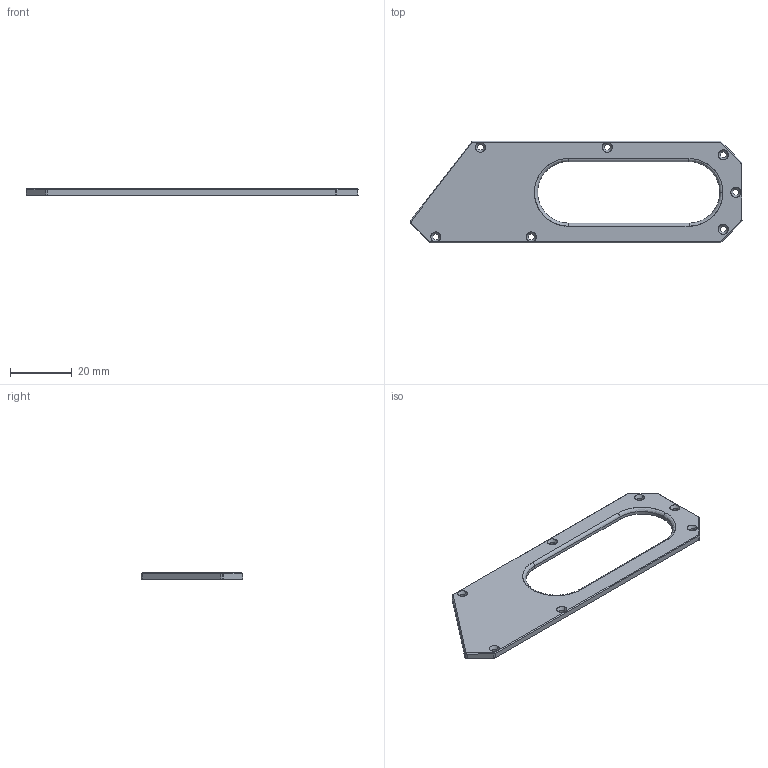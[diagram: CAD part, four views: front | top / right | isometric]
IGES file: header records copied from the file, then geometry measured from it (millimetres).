
Start section: SolidWorks IGES file using analytic representation for surfaces
Global section: file name: C:\Users\Switch\Desktop\video projects\giaco\outsideBoxStickers\3d\done\plate\MakerKnifeFrontPlate.IGS; native system: SolidWorks 2017; preprocessor: SolidWorks 2017; author: Switch; date: 181106.170502; units: millimetre
Bounding box: 107.94 x 33.1 x 2 mm (x, y, z)
Surface area: 5003 mm2 (no closed solid volume)
Topology: 0 solids, 0 shells, 70 faces, 839 edges, 839 vertices
Faces by surface type: revolution 49, bspline 21
